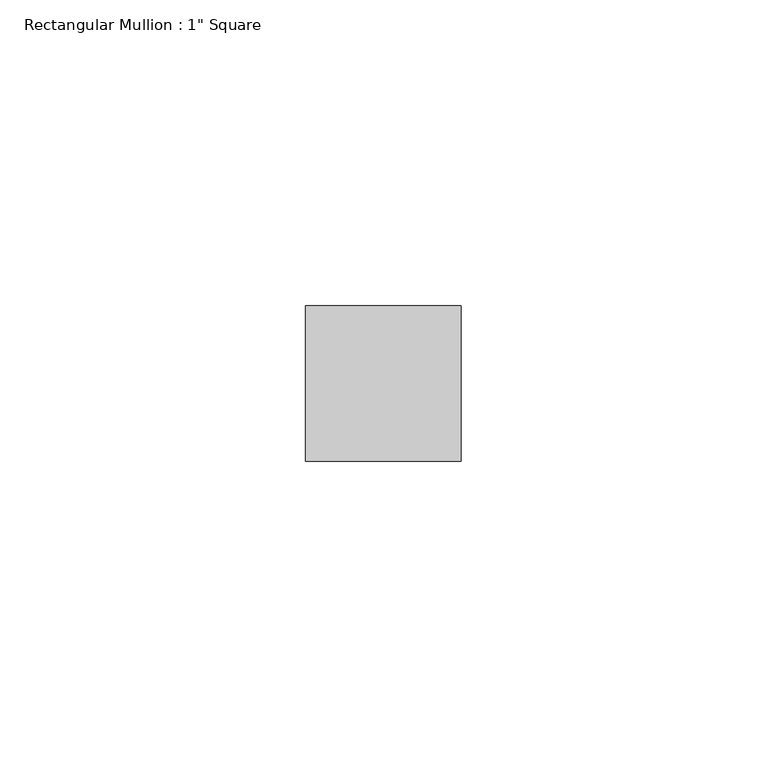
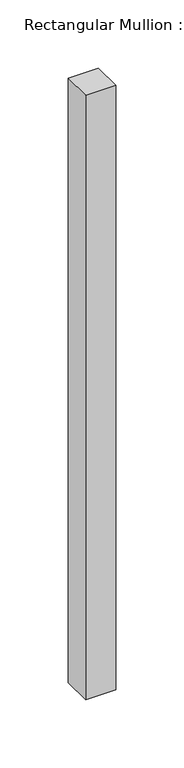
"""IFC4 building model written with IfcOpenShell, lengths in millimetres: member geometry."""

from ifc_helpers import new_model, si_unit, frame, origin, place, context, project, spatial, polyline, outline, extrude, source, transform, mapped, element, save


def member_88ffdf74(model_context):
    return source(origin(), model_context, "Body", "SweptSolid", [
        extrude(outline(polyline([(12.7, 12.7), (12.7, -12.7), (-12.7, -12.7), (-12.7, 12.7), (12.7, 12.7)])), frame((0.0, 0.0, -541.0417564), z_axis=(0.0, 0.0, 1.0), x_axis=(1.0, 0.0, 0.0)), (0.0, 0.0, 1.0), 541.0417564),
    ])


if __name__ == "__main__":
    model = new_model("IFC4")
    model_context = context("Model", 3, world=origin())
    ifc_project = project(units=[si_unit("LENGTHUNIT", "METRE", prefix="MILLI")], contexts=[model_context])
    site = spatial("IfcSite", under=ifc_project)
    building = spatial("IfcBuilding", under=site)
    placement = place(None, origin())
    member_shape = member_88ffdf74(model_context)
    element("IfcMember", 1, ObjectType="Rectangular Mullion : 1\" Square", at=placement, inside=building, context=model_context, shape_type="MappedRepresentation", body=[
        mapped(member_shape, transform((0.0, 0.0, 0.0), x_axis=(1.0, 0.0, 0.0), y_axis=(0.0, 1.0, 0.0), z_axis=(0.0, 0.0, 1.0))),
    ])
    save(model, "model.ifc")
